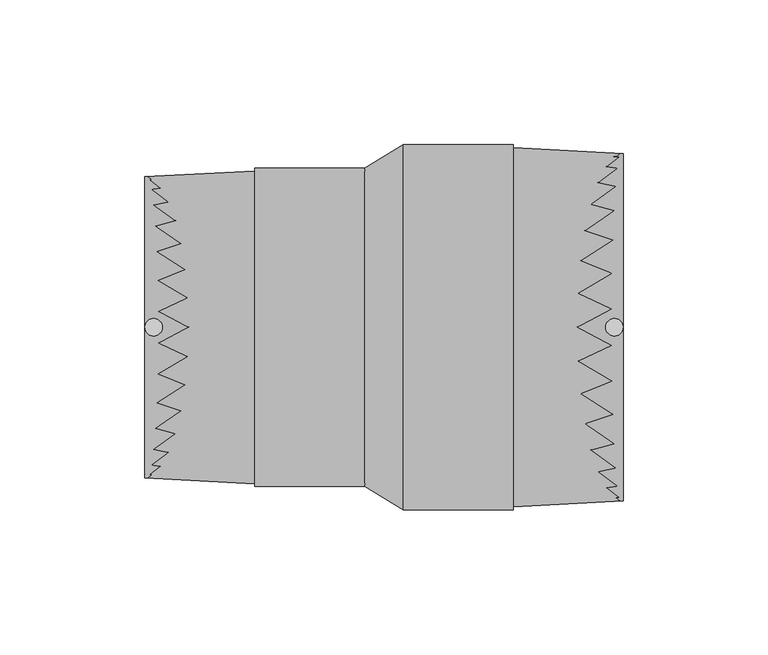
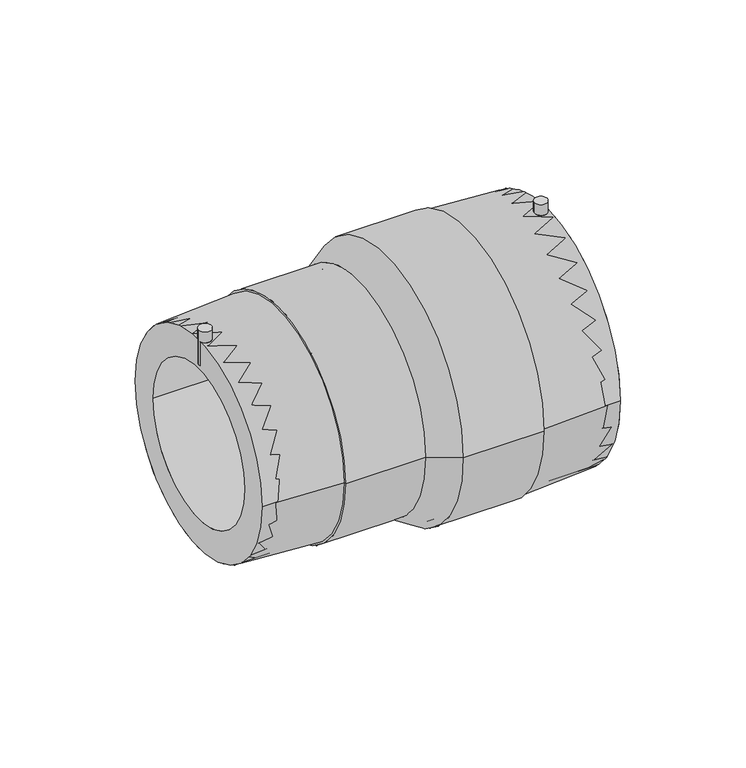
"""IFC4 building model written with IfcOpenShell, lengths in millimetres: pipe fitting geometry, EGB_VASEN_ PPR_Manguito reductor electrosoldable WXRD110 : Manguito reductor electrosoldable WXRD110."""

import ifcopenshell
import ifcopenshell.guid

model = None  # the IFC model being written
_history = None  # IfcOwnerHistory: only IFC2X3 demands one
_inside = {}  # id of a spatial element -> (the spatial element, [elements in it])
_under = {}  # id of a project, library or spatial element -> (it, [spatial elements below it])
_declared = {}  # id of a project -> (the project, [libraries it declares])
_typed = {}  # id of a type object -> (the type object, [elements of that type])
_made_of = {}  # id of a material, layer set ... -> (it, [elements and type objects made of it])


def new_model(schema):
    """Start an empty IFC model of exactly this schema.

    Asked for "IFC4X3", IfcOpenShell would pick the latest addendum, in which some entities
    have other attributes; the version numbers below select the first issue.
    IFC2X3 requires an IfcOwnerHistory on every rooted entity: one is made here for all.
    """
    global model, _history
    if schema == "IFC4X3":
        model = ifcopenshell.file(schema_version=(4, 3, 0, 0))
    else:
        model = ifcopenshell.file(schema=schema)
    _inside.clear()
    _under.clear()
    _declared.clear()
    _typed.clear()
    _made_of.clear()
    _history = None
    if model.schema == "IFC2X3":
        org = make("IfcOrganization", Name="unknown")
        user = make(
            "IfcPersonAndOrganization",
            ThePerson=make("IfcPerson", FamilyName="unknown"),
            TheOrganization=org,
        )
        app = make(
            "IfcApplication",
            ApplicationDeveloper=org,
            Version="unknown",
            ApplicationFullName="unknown",
            ApplicationIdentifier="unknown",
        )
        _history = make(
            "IfcOwnerHistory",
            OwningUser=user,
            OwningApplication=app,
            ChangeAction="ADDED",
            CreationDate=0,
        )
    return model


def make(cls, **values):
    """One entity of the class cls with the attributes given. An attribute that is None is left unset."""
    return model.create_entity(
        cls, **{name: value for name, value in values.items() if value is not None}
    )


def rooted(cls, **values):
    """An entity with a GlobalId (a new one), such as an element, a storey or a relation."""
    return make(cls, GlobalId=ifcopenshell.guid.new(), OwnerHistory=_history, **values)


def si_unit(unit_type, name, prefix=None):
    """IfcSIUnit, for example si_unit("LENGTHUNIT", "METRE", prefix="MILLI")."""
    return make("IfcSIUnit", UnitType=unit_type, Prefix=prefix, Name=name)


def assignment(units):
    """IfcUnitAssignment: the units of a project."""
    return None if units is None else make("IfcUnitAssignment", Units=units)


def point(xyz):
    """IfcCartesianPoint."""
    return None if xyz is None else make("IfcCartesianPoint", Coordinates=xyz)


def direction(xyz):
    """IfcDirection."""
    return None if xyz is None else make("IfcDirection", DirectionRatios=xyz)


def frame(location, z_axis=None, x_axis=None):
    """IfcAxis2Placement3D, a coordinate frame: its origin and axes. An axis left out is left unset."""
    return make(
        "IfcAxis2Placement3D",
        Location=point(location),
        Axis=direction(z_axis),
        RefDirection=direction(x_axis),
    )


def frame_2d(location, x_axis=None):
    """IfcAxis2Placement2D, a coordinate frame in the plane: its origin and x axis."""
    return make(
        "IfcAxis2Placement2D", Location=point(location), RefDirection=direction(x_axis)
    )


def origin():
    """The frame at (0, 0, 0) with its axes left unset."""
    return frame((0.0, 0.0, 0.0))


def origin_2d():
    """The frame at (0, 0) in the plane with its x axis left unset."""
    return frame_2d((0.0, 0.0))


def place(relative_to, where):
    """IfcLocalPlacement: puts the frame where relative to a parent placement (None: the world)."""
    return make(
        "IfcLocalPlacement", PlacementRelTo=relative_to, RelativePlacement=where
    )


def context(
    kind, dimensions, precision=None, world=None, true_north=None, identifier=None
):
    """IfcGeometricRepresentationContext, for example the 3D "Model" context."""
    return make(
        "IfcGeometricRepresentationContext",
        ContextIdentifier=identifier,
        ContextType=kind,
        CoordinateSpaceDimension=dimensions,
        Precision=precision,
        WorldCoordinateSystem=world,
        TrueNorth=true_north,
    )


def project(units=None, contexts=None):
    """IfcProject with its units and contexts."""
    return rooted(
        "IfcProject",
        Name="project",
        RepresentationContexts=contexts,
        UnitsInContext=assignment(units),
    )


def spatial(cls, under=None, at=None, **own):
    """A site, building, storey or space (cls), placed at a placement, below another one or the project."""
    s = rooted(cls, ObjectPlacement=at, **own)
    if under is not None:
        _under.setdefault(under.id(), (under, []))[1].append(s)
    return s


def polyline(points):
    """IfcPolyline through the points."""
    return make("IfcPolyline", Points=[point(p) for p in points])


def circle_curve(where, radius):
    """IfcCircle in the frame where."""
    return make("IfcCircle", Position=where, Radius=radius)


def trimmed(basis, trim1, trim2, sense, master):
    """IfcTrimmedCurve: the piece of a basis curve between two trims."""
    return make(
        "IfcTrimmedCurve",
        BasisCurve=basis,
        Trim1=trim1,
        Trim2=trim2,
        SenseAgreement=sense,
        MasterRepresentation=master,
    )


def segment(curve, same_sense, transition):
    """IfcCompositeCurveSegment."""
    return make(
        "IfcCompositeCurveSegment",
        Transition=transition,
        SameSense=same_sense,
        ParentCurve=curve,
    )


def composite_curve(segments, self_intersect=None):
    """IfcCompositeCurve: segments joined end to end."""
    return make("IfcCompositeCurve", Segments=segments, SelfIntersect=self_intersect)


def outline(outer, holes=None, kind="AREA"):
    """IfcArbitraryClosedProfileDef: a profile drawn as a closed curve; with holes, ...WithVoids."""
    if holes is None:
        return make("IfcArbitraryClosedProfileDef", ProfileType=kind, OuterCurve=outer)
    return make(
        "IfcArbitraryProfileDefWithVoids",
        ProfileType=kind,
        OuterCurve=outer,
        InnerCurves=holes,
    )


def extrude(swept, where, along, depth):
    """IfcExtrudedAreaSolid: the profile swept, set in the frame where, extruded along a direction by depth."""
    return make(
        "IfcExtrudedAreaSolid",
        SweptArea=swept,
        Position=where,
        ExtrudedDirection=direction(along),
        Depth=depth,
    )


def shape(context_of_items, identifier, shape_type, items):
    """IfcShapeRepresentation: the items that make up one representation, for example the "Body"."""
    return make(
        "IfcShapeRepresentation",
        ContextOfItems=context_of_items,
        RepresentationIdentifier=identifier,
        RepresentationType=shape_type,
        Items=items,
    )


def source(mapping_origin, context_of_items, identifier, shape_type, items):
    """IfcRepresentationMap: a shape defined once, which mapped items show again and again."""
    return make(
        "IfcRepresentationMap",
        MappingOrigin=mapping_origin,
        MappedRepresentation=shape(context_of_items, identifier, shape_type, items),
    )


def transform(
    local_origin,
    x_axis=None,
    y_axis=None,
    z_axis=None,
    scale=None,
    scale2=None,
    scale3=None,
    uniform=True,
):
    """IfcCartesianTransformationOperator3D, or its non-uniform kind. x_axis, y_axis, z_axis: its Axis1, 2, 3."""
    if uniform:
        return make(
            "IfcCartesianTransformationOperator3D",
            Axis1=direction(x_axis),
            Axis2=direction(y_axis),
            LocalOrigin=point(local_origin),
            Scale=scale,
            Axis3=direction(z_axis),
        )
    return make(
        "IfcCartesianTransformationOperator3DnonUniform",
        Axis1=direction(x_axis),
        Axis2=direction(y_axis),
        LocalOrigin=point(local_origin),
        Scale=scale,
        Axis3=direction(z_axis),
        Scale2=scale2,
        Scale3=scale3,
    )


def mapped(mapping_source, mapping_target):
    """IfcMappedItem: shows the shape of a source again, moved by a transform."""
    return make(
        "IfcMappedItem", MappingSource=mapping_source, MappingTarget=mapping_target
    )


def made_of(thing, what):
    """Note that an element or type object is made of a material, layer set ...; save() writes the relation."""
    if what is not None:
        _made_of.setdefault(what.id(), (what, []))[1].append(thing)
    return thing


def element(
    cls,
    number,
    at=None,
    inside=None,
    cuts=None,
    type_object=None,
    material=None,
    context=None,
    identifier="Body",
    shape_type=None,
    held_by="IfcProductDefinitionShape",
    body=None,
    shapes=None,
    **own,
):
    """One element of the class cls, such as IfcWall. Its Tag is "e" and its number.

    at: its placement. inside: the storey or other place that contains it. cuts: it is an
    opening in that element (IfcRelVoidsElement). A single representation is given by context,
    identifier, shape_type and body (its items); several are given by shapes. held_by: the class
    of the entity that holds the representations. save() writes the other relations.
    """
    e = rooted(cls, Tag="e%d" % number, ObjectPlacement=at, **own)
    if body is not None:
        shapes = [shape(context, identifier, shape_type, body)]
    if shapes is not None:
        e.Representation = make(held_by, Representations=shapes)
    if inside is not None:
        _inside.setdefault(inside.id(), (inside, []))[1].append(e)
    if cuts is not None:
        rooted(
            "IfcRelVoidsElement", RelatingBuildingElement=cuts, RelatedOpeningElement=e
        )
    if type_object is not None:
        _typed.setdefault(type_object.id(), (type_object, []))[1].append(e)
    return made_of(e, material)


def aggregate(whole, parts):
    """IfcRelAggregates: a whole, such as a stair, and the parts it consists of."""
    return rooted("IfcRelAggregates", RelatingObject=whole, RelatedObjects=parts)


def save(model, path):
    """Write the relations noted so far, then the file.

    IfcRelAggregates (storeys below a building ...), IfcRelContainedInSpatialStructure (elements
    in a storey), IfcRelDefinesByType, IfcRelAssociatesMaterial and IfcRelDeclares: one each for
    every whole, place, type object, material and project.
    """
    for whole, parts in _under.values():
        aggregate(whole, parts)
    for where, things in _inside.values():
        rooted(
            "IfcRelContainedInSpatialStructure",
            RelatedElements=things,
            RelatingStructure=where,
        )
    for kind, things in _typed.values():
        rooted("IfcRelDefinesByType", RelatedObjects=things, RelatingType=kind)
    for what, things in _made_of.values():
        rooted("IfcRelAssociatesMaterial", RelatedObjects=things, RelatingMaterial=what)
    for by, libraries in _declared.values():
        rooted("IfcRelDeclares", RelatingContext=by, RelatedDefinitions=libraries)
    model.write(path)


def plane_surface(at):
    """IfcPlane: the flat surface through the origin of the frame at, square to its z axis."""
    return make("IfcPlane", Position=at)


def cylinder_surface(at, radius):
    """IfcCylindricalSurface: all points at the distance radius from the z axis of the frame at."""
    return make("IfcCylindricalSurface", Position=at, Radius=radius)


def revolved_surface(curve, axis_point, axis_direction):
    """IfcSurfaceOfRevolution: the curve turned about the line through axis_point along axis_direction."""
    return make(
        "IfcSurfaceOfRevolution",
        SweptCurve=make("IfcArbitraryOpenProfileDef", ProfileType="CURVE", Curve=curve),
        AxisPosition=make("IfcAxis1Placement", Location=point(axis_point), Axis=direction(axis_direction)),
    )


def advanced_brep(points, edges, surfaces, faces):
    """IfcAdvancedBrep: a solid bounded by faces that lie on surfaces and meet in shared edges.

    An edge is (start, end): straight between two places in points (the first is 0);
    or (start, end, curve); or (start, end, curve, False) where it runs against its curve.
    A face is (place in surfaces, loops), or (place, loops, False) where it looks against
    its surface's normal. A loop lists edges by number (the first is 1), with a minus sign
    where the edge is run from its end to its start. The first loop is the outer one.
    """
    corners = [point(p) for p in points]
    vertices = [make("IfcVertexPoint", VertexGeometry=c) for c in corners]
    made = []
    for start, end, *more in edges:
        made.append(
            make(
                "IfcEdgeCurve",
                EdgeStart=vertices[start],
                EdgeEnd=vertices[end],
                EdgeGeometry=more[0] if more else make("IfcPolyline", Points=[corners[start], corners[end]]),
                SameSense=more[1] if len(more) > 1 else True,
            )
        )
    hull = []
    for where, loops, *sense in faces:
        bounds = []
        for j, loop in enumerate(loops):
            ring = [make("IfcOrientedEdge", EdgeElement=made[abs(k) - 1], Orientation=k > 0) for k in loop]
            bounds.append(
                make(
                    "IfcFaceOuterBound" if j == 0 else "IfcFaceBound",
                    Bound=make("IfcEdgeLoop", EdgeList=ring),
                    Orientation=True,
                )
            )
        hull.append(make("IfcAdvancedFace", Bounds=bounds, FaceSurface=surfaces[where], SameSense=sense[0] if sense else True))
    return make("IfcAdvancedBrep", Outer=make("IfcClosedShell", CfsFaces=hull))


def pipe_fitting_9523e6ca(model_context):
    return source(origin(), model_context, "Body", "SolidModel", [
        extrude(outline(composite_curve([segment(trimmed(circle_curve(frame_2d((79.5, 0.0)), 3.0), [point((76.5, 0.0))], [point((82.5, 0.0))], False, "CARTESIAN"), True, "CONTINUOUS"), segment(trimmed(circle_curve(frame_2d((79.5, 0.0)), 3.0), [point((82.5, 0.0))], [point((76.5, 0.0))], False, "CARTESIAN"), True, "CONTINUOUS")], self_intersect=False)), frame((0.0, 0.0, 47.0), z_axis=(0.0, 0.0, 1.0), x_axis=(1.0, 0.0, 0.0)), (0.0, 0.0, 1.0), 18.0),
        extrude(outline(composite_curve([segment(trimmed(circle_curve(frame_2d((-79.5, 0.0)), 3.0), [point((-82.5, 0.0))], [point((-76.5, 0.0))], False, "CARTESIAN"), True, "CONTINUOUS"), segment(trimmed(circle_curve(frame_2d((-79.5, 0.0)), 3.0), [point((-76.5, 0.0))], [point((-82.5, 0.0))], False, "CARTESIAN"), True, "CONTINUOUS")], self_intersect=False)), frame((0.0, 0.0, 39.5), z_axis=(0.0, 0.0, 1.0), x_axis=(1.0, 0.0, 0.0)), (0.0, 0.0, 1.0), 17.5),
        extrude(outline(composite_curve([segment(trimmed(circle_curve(origin_2d(), 60.0), [point((-60.0, 0.0))], [point((60.0, 0.0))], False, "CARTESIAN"), True, "CONTINUOUS"), segment(trimmed(circle_curve(origin_2d(), 60.0), [point((60.0, 0.0))], [point((-60.0, 0.0))], False, "CARTESIAN"), True, "CONTINUOUS")], self_intersect=False), holes=[composite_curve([segment(trimmed(circle_curve(origin_2d(), 45.0), [point((-45.0, 0.0))], [point((45.0, 0.0))], True, "CARTESIAN"), True, "CONTINUOUS"), segment(trimmed(circle_curve(origin_2d(), 45.0), [point((45.0, 0.0))], [point((-45.0, 0.0))], True, "CARTESIAN"), True, "CONTINUOUS")], self_intersect=False)]), frame((6.6, 0.0, 0.0), z_axis=(1.0, 0.0, 0.0), x_axis=(0.0, 1.0, 0.0)), (0.0, 0.0, 1.0), 75.9),
        extrude(outline(composite_curve([segment(trimmed(circle_curve(origin_2d(), 52.0), [point((-52.0, 0.0))], [point((52.0, 0.0))], False, "CARTESIAN"), True, "CONTINUOUS"), segment(trimmed(circle_curve(origin_2d(), 52.0), [point((52.0, 0.0))], [point((-52.0, 0.0))], False, "CARTESIAN"), True, "CONTINUOUS")], self_intersect=False), holes=[composite_curve([segment(trimmed(circle_curve(origin_2d(), 37.5), [point((-37.5, 0.0))], [point((37.5, 0.0))], True, "CARTESIAN"), True, "CONTINUOUS"), segment(trimmed(circle_curve(origin_2d(), 37.5), [point((37.5, 0.0))], [point((-37.5, 0.0))], True, "CARTESIAN"), True, "CONTINUOUS")], self_intersect=False)]), frame((-82.5, 0.0, 0.0), z_axis=(1.0, 0.0, 0.0), x_axis=(0.0, 1.0, 0.0)), (0.0, 0.0, 1.0), 75.9),
        advanced_brep(
        [(6.6, -60.0, 0.0), (6.6, 60.0, 0.0), (-6.6, -52.0, 0.0), (-6.6, 52.0, 0.0)],
        [
            (0, 1, circle_curve(frame((6.6, 0.0, 0.0), z_axis=(1.0, 0.0, 0.0), x_axis=(0.0, -1.0, 0.0)), 60.0)),
            (1, 0, circle_curve(frame((6.6, 0.0, 0.0), z_axis=(1.0, 0.0, 0.0), x_axis=(0.0, 1.0, 0.0)), 60.0)),
            (2, 3, circle_curve(frame((-6.6, 0.0, 0.0), z_axis=(-1.0, 0.0, 0.0), x_axis=(0.0, 1.0, 0.0)), 52.0)),
            (3, 2, circle_curve(frame((-6.6, 0.0, 0.0), z_axis=(-1.0, 0.0, 0.0), x_axis=(0.0, -1.0, 0.0)), 52.0)),
            (3, 1),
            (0, 2),
        ],
        [
            plane_surface(frame((6.6, 0.0, 0.0), z_axis=(1.0, 0.0, 0.0), x_axis=(0.0, 0.0, -1.0))),
            plane_surface(frame((-6.6, 0.0, 0.0), z_axis=(-1.0, 0.0, 0.0), x_axis=(0.0, 0.0, -1.0))),
            revolved_surface(polyline([(-6.599999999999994, 52.00000000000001, 0.0), (6.599999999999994, 60.0, 0.0)]), (-92.4, 0.0, 0.0), (1.0, 0.0, 0.0)),
            revolved_surface(polyline([(-6.599999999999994, -52.00000000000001, 0.0), (6.599999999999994, -60.0, 0.0)]), (-92.4, 0.0, 0.0), (1.0, 0.0, 0.0)),
        ],
        [
            (0, [[1, 2]]),
            (1, [[3, 4]]),
            (2, [[-4, 5, -1, 6]]),
            (3, [[-3, -6, -2, -5]]),
        ],
    ),
        advanced_brep(
        [(6.6, -60.0, 0.0), (6.6, 60.0, 0.0), (-6.6, 52.0, 0.0), (-6.6, -52.0, 0.0), (82.5, -60.0, 0.0), (82.5, 60.0, 0.0), (44.55, -62.0, 0.0), (44.55, 62.0, 0.0), (44.55, -63.0, 0.0), (44.55, 63.0, 0.0), (6.6, -63.0, 0.0), (6.6, 63.0, 0.0), (-6.6, -55.0, 0.0), (-6.6, 55.0, 0.0), (-44.55, -55.0, 0.0), (-44.55, 55.0, 0.0), (-44.55, -54.0, 0.0), (-44.55, 54.0, 0.0), (-82.5, -52.0, 0.0), (-82.5, 52.0, 0.0)],
        [
            (0, 1, circle_curve(frame((6.6, 0.0, 0.0), z_axis=(1.0, 0.0, 0.0), x_axis=(0.0, 1.0, 0.0)), 60.0)),
            (1, 2),
            (2, 3, circle_curve(frame((-6.6, 0.0, 0.0), z_axis=(-1.0, 0.0, 0.0), x_axis=(0.0, 1.0, 0.0)), 52.0)),
            (3, 0),
            (1, 0, circle_curve(frame((6.6, 0.0, 0.0), z_axis=(1.0, 0.0, 0.0), x_axis=(0.0, 1.0, 0.0)), 60.0)),
            (3, 2, circle_curve(frame((-6.6, 0.0, 0.0), z_axis=(-1.0, 0.0, 0.0), x_axis=(0.0, 1.0, 0.0)), 52.0)),
            (4, 5, circle_curve(frame((82.5, 0.0, 0.0), z_axis=(1.0, 0.0, 0.0), x_axis=(0.0, 1.0, 0.0)), 60.0)),
            (5, 1),
            (0, 4),
            (5, 4, circle_curve(frame((82.5, 0.0, 0.0), z_axis=(1.0, 0.0, 0.0), x_axis=(0.0, 1.0, 0.0)), 60.0)),
            (6, 7, circle_curve(frame((44.55, 0.0, 0.0), z_axis=(1.0, 0.0, 0.0), x_axis=(0.0, 1.0, 0.0)), 62.0)),
            (7, 5),
            (4, 6),
            (7, 6, circle_curve(frame((44.55, 0.0, 0.0), z_axis=(1.0, 0.0, 0.0), x_axis=(0.0, 1.0, 0.0)), 62.0)),
            (8, 9, circle_curve(frame((44.55, 0.0, 0.0), z_axis=(1.0, 0.0, 0.0), x_axis=(0.0, 1.0, 0.0)), 63.0)),
            (9, 7),
            (6, 8),
            (9, 8, circle_curve(frame((44.55, 0.0, 0.0), z_axis=(1.0, 0.0, 0.0), x_axis=(0.0, 1.0, 0.0)), 63.0)),
            (10, 11, circle_curve(frame((6.6, 0.0, 0.0), z_axis=(1.0, 0.0, 0.0), x_axis=(0.0, 1.0, 0.0)), 63.0)),
            (11, 9),
            (8, 10),
            (11, 10, circle_curve(frame((6.6, 0.0, 0.0), z_axis=(1.0, 0.0, 0.0), x_axis=(0.0, 1.0, 0.0)), 63.0)),
            (12, 13, circle_curve(frame((-6.6, 0.0, 0.0), z_axis=(1.0, 0.0, 0.0), x_axis=(0.0, 1.0, 0.0)), 55.0)),
            (13, 11),
            (10, 12),
            (13, 12, circle_curve(frame((-6.6, 0.0, 0.0), z_axis=(1.0, 0.0, 0.0), x_axis=(0.0, 1.0, 0.0)), 55.0)),
            (14, 15, circle_curve(frame((-44.55, 0.0, 0.0), z_axis=(1.0, 0.0, 0.0), x_axis=(0.0, 1.0, 0.0)), 55.0)),
            (15, 13),
            (12, 14),
            (15, 14, circle_curve(frame((-44.55, 0.0, 0.0), z_axis=(1.0, 0.0, 0.0), x_axis=(0.0, 1.0, 0.0)), 55.0)),
            (16, 17, circle_curve(frame((-44.55, 0.0, 0.0), z_axis=(1.0, 0.0, 0.0), x_axis=(0.0, 1.0, 0.0)), 54.0)),
            (17, 15),
            (14, 16),
            (17, 16, circle_curve(frame((-44.55, 0.0, 0.0), z_axis=(1.0, 0.0, 0.0), x_axis=(0.0, 1.0, 0.0)), 54.0)),
            (18, 19, circle_curve(frame((-82.5, 0.0, 0.0), z_axis=(1.0, 0.0, 0.0), x_axis=(0.0, 1.0, 0.0)), 52.0)),
            (19, 17),
            (16, 18),
            (19, 18, circle_curve(frame((-82.5, 0.0, 0.0), z_axis=(1.0, 0.0, 0.0), x_axis=(0.0, 1.0, 0.0)), 52.0)),
            (2, 19),
            (18, 3),
        ],
        [
            revolved_surface(polyline([(-6.6, 52.0, 0.0), (6.6, 60.0, 0.0)]), (-117.5, 0.0, 0.0), (-1.0, 0.0, 0.0)),
            revolved_surface(polyline([(6.599999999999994, 60.0, 0.0), (82.5, 60.0, 0.0)]), (-117.5, 0.0, 0.0), (-1.0, 0.0, 0.0)),
            revolved_surface(polyline([(82.5, 60.0, 0.0), (44.55, 62.0, 0.0)]), (-117.5, 0.0, 0.0), (-1.0, 0.0, 0.0)),
            plane_surface(frame((44.55, 0.0, 0.0), z_axis=(1.0, 0.0, 0.0), x_axis=(0.0, 1.0, 0.0))),
            cylinder_surface(frame((-117.5, 0.0, 0.0), z_axis=(-1.0, 0.0, 0.0), x_axis=(0.0, 1.0, 0.0)), 63.0),
            revolved_surface(polyline([(6.6, 63.0, 0.0), (-6.6, 55.0, 0.0)]), (-117.5, 0.0, 0.0), (-1.0, 0.0, 0.0)),
            cylinder_surface(frame((-117.5, 0.0, 0.0), z_axis=(-1.0, 0.0, 0.0), x_axis=(0.0, 1.0, 0.0)), 55.0),
            plane_surface(frame((-44.55, 0.0, 0.0), z_axis=(-1.0, 0.0, 0.0), x_axis=(0.0, 1.0, 0.0))),
            revolved_surface(polyline([(-44.55, 54.0, 0.0), (-82.5, 52.0, 0.0)]), (-117.5, 0.0, 0.0), (-1.0, 0.0, 0.0)),
            revolved_surface(polyline([(-82.5, 52.0, 0.0), (-6.599999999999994, 52.0, 0.0)]), (-117.5, 0.0, 0.0), (-1.0, 0.0, 0.0)),
        ],
        [
            (0, [[1, 2, 3, 4]]),
            (0, [[5, -4, 6, -2]]),
            (1, [[7, 8, -1, 9]]),
            (1, [[10, -9, -5, -8]]),
            (2, [[11, 12, -7, 13]]),
            (2, [[14, -13, -10, -12]]),
            (3, [[15, 16, -11, 17]]),
            (3, [[18, -17, -14, -16]]),
            (4, [[19, 20, -15, 21]]),
            (4, [[22, -21, -18, -20]]),
            (5, [[23, 24, -19, 25]]),
            (5, [[26, -25, -22, -24]]),
            (6, [[27, 28, -23, 29]]),
            (6, [[30, -29, -26, -28]]),
            (7, [[31, 32, -27, 33]]),
            (7, [[34, -33, -30, -32]]),
            (8, [[35, 36, -31, 37]]),
            (8, [[38, -37, -34, -36]]),
            (9, [[-3, 39, -35, 40]]),
            (9, [[-6, -40, -38, -39]]),
        ],
    ),
    ])


if __name__ == "__main__":
    model = new_model("IFC4")
    model_context = context("Model", 3, world=origin())
    ifc_project = project(units=[si_unit("LENGTHUNIT", "METRE", prefix="MILLI")], contexts=[model_context])
    site = spatial("IfcSite", under=ifc_project)
    building = spatial("IfcBuilding", under=site)
    placement = place(None, origin())
    pipe_fitting_shape = pipe_fitting_9523e6ca(model_context)
    element("IfcPipeFitting", 1, ObjectType="EGB_VASEN_ PPR_Manguito reductor electrosoldable WXRD110 : Manguito reductor electrosoldable WXRD110", at=placement, inside=building, context=model_context, shape_type="MappedRepresentation", body=[
        mapped(pipe_fitting_shape, transform((0.0, 0.0, 0.0), x_axis=(1.0, 0.0, 0.0), y_axis=(0.0, 1.0, 0.0), z_axis=(0.0, 0.0, 1.0))),
    ])
    save(model, "model.ifc")
